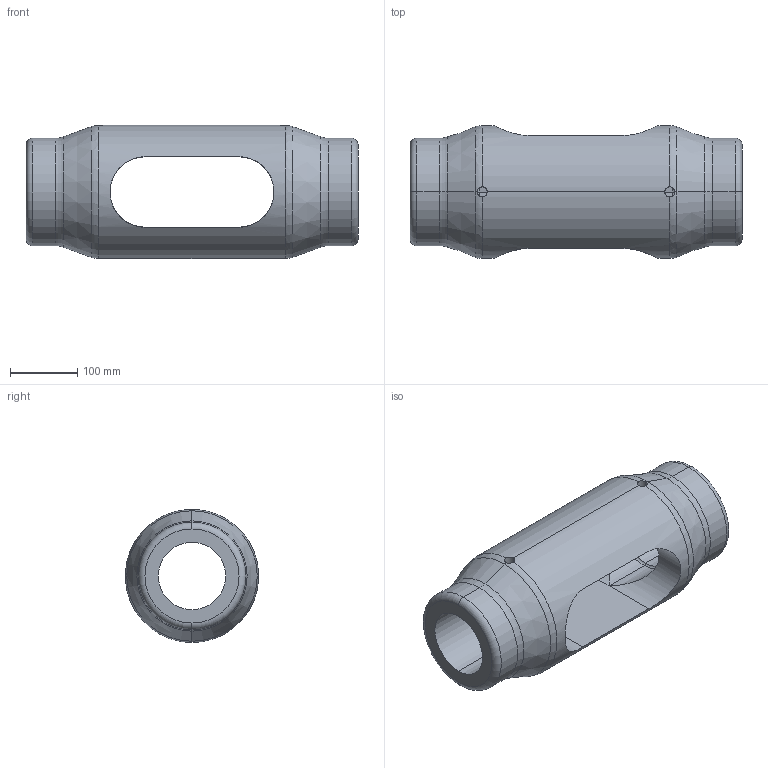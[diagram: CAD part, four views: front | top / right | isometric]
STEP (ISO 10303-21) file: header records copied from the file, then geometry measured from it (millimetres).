
FILE_DESCRIPTION (( 'STEP AP203' ), '1' );
FILE_NAME ('Kreuzmuffe 100.STEP', '2018-03-14T05:24:45', ( 'install' ), ( 'Hewlett-Packard Company' ), 'SwSTEP 2.0', 'SolidWorks 2017', '' );
FILE_SCHEMA (( 'CONFIG_CONTROL_DESIGN' ));
Length unit declared in the file: millimetre
Products named in the file (1): Kreuzmuffe 100
Bounding box: 494 x 197.89 x 198 mm (x, y, z)
Volume: 6987424.7 mm3; surface area: 445239.5 mm2
Topology: 1 solids, 1 shells, 46 faces, 108 edges, 58 vertices
Faces by surface type: cylinder 22, torus 16, cone 4, plane 4
Entity records: 1961 total; most frequent: CARTESIAN_POINT 843, DIRECTION 228, ORIENTED_EDGE 216, EDGE_CURVE 108, AXIS2_PLACEMENT_3D 97, VERTEX_POINT 58, EDGE_LOOP 50, CIRCLE 50
